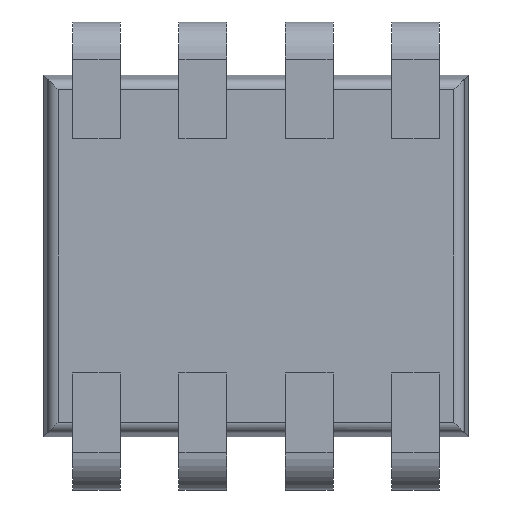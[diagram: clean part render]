
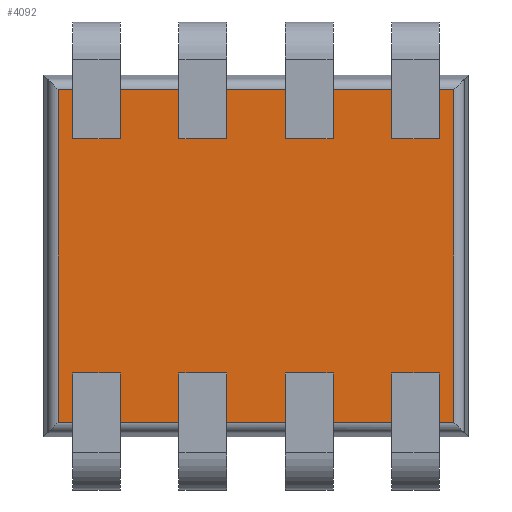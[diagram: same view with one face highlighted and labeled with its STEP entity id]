
A CAD part, front view. The second image highlights one B-rep face of the part: STEP entity #4092.
In plain terms, the highlighted planar face has unit normal (0, -1, 0).
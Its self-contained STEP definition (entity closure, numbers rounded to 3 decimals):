
#4053 = CARTESIAN_POINT ( 'NONE',  ( 0.93, 0.25, -0.781 ) ) ;
#4054 = VERTEX_POINT ( 'NONE', #4053 ) ;
#4055 = CARTESIAN_POINT ( 'NONE',  ( 0.93, 0.25, 0.781 ) ) ;
#4056 = VERTEX_POINT ( 'NONE', #4055 ) ;
#4057 = CARTESIAN_POINT ( 'NONE',  ( 0.93, 0.25, 0. ) ) ;
#4058 = DIRECTION ( 'NONE',  ( 0., 0., 1. ) ) ;
#4059 = VECTOR ( 'NONE', #4058, 1000. ) ;
#4060 = LINE ( 'NONE', #4057, #4059 ) ;
#4061 = EDGE_CURVE ( 'NONE', #4054, #4056, #4060, .T. ) ;
#4062 = ORIENTED_EDGE ( 'NONE', *, *, #4061, .T. ) ;
#4063 = CARTESIAN_POINT ( 'NONE',  ( -0.93, 0.25, 0.781 ) ) ;
#4064 = VERTEX_POINT ( 'NONE', #4063 ) ;
#4065 = CARTESIAN_POINT ( 'NONE',  ( 0., 0.25, 0.781 ) ) ;
#4066 = DIRECTION ( 'NONE',  ( -1., 0., 0. ) ) ;
#4067 = VECTOR ( 'NONE', #4066, 1000. ) ;
#4068 = LINE ( 'NONE', #4065, #4067 ) ;
#4069 = EDGE_CURVE ( 'NONE', #4056, #4064, #4068, .T. ) ;
#4070 = ORIENTED_EDGE ( 'NONE', *, *, #4069, .T. ) ;
#4071 = CARTESIAN_POINT ( 'NONE',  ( -0.93, 0.25, -0.781 ) ) ;
#4072 = VERTEX_POINT ( 'NONE', #4071 ) ;
#4073 = CARTESIAN_POINT ( 'NONE',  ( -0.93, 0.25, 0. ) ) ;
#4074 = DIRECTION ( 'NONE',  ( 0., 0., -1. ) ) ;
#4075 = VECTOR ( 'NONE', #4074, 1000. ) ;
#4076 = LINE ( 'NONE', #4073, #4075 ) ;
#4077 = EDGE_CURVE ( 'NONE', #4064, #4072, #4076, .T. ) ;
#4078 = ORIENTED_EDGE ( 'NONE', *, *, #4077, .T. ) ;
#4079 = CARTESIAN_POINT ( 'NONE',  ( 0., 0.25, -0.781 ) ) ;
#4080 = DIRECTION ( 'NONE',  ( 1., 0., 0. ) ) ;
#4081 = VECTOR ( 'NONE', #4080, 1000. ) ;
#4082 = LINE ( 'NONE', #4079, #4081 ) ;
#4083 = EDGE_CURVE ( 'NONE', #4072, #4054, #4082, .T. ) ;
#4084 = ORIENTED_EDGE ( 'NONE', *, *, #4083, .T. ) ;
#4085 = EDGE_LOOP ( 'NONE', ( #4062, #4070, #4078, #4084 ) ) ;
#4086 = FACE_OUTER_BOUND ( 'NONE', #4085, .T. ) ;
#4087 = CARTESIAN_POINT ( 'NONE',  ( 0., 0.25, 0. ) ) ;
#4088 = DIRECTION ( 'NONE',  ( 0., -1., 0. ) ) ;
#4089 = DIRECTION ( 'NONE',  ( 0., 0., -1. ) ) ;
#4090 = AXIS2_PLACEMENT_3D ( 'NONE', #4087, #4088, #4089 ) ;
#4091 = PLANE ( 'NONE', #4090 ) ;
#4092 = ADVANCED_FACE ( 'NONE', ( #4086 ), #4091, .T. ) ;
